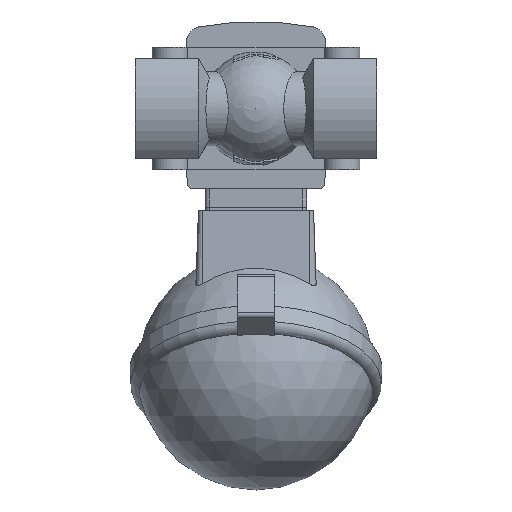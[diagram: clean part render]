
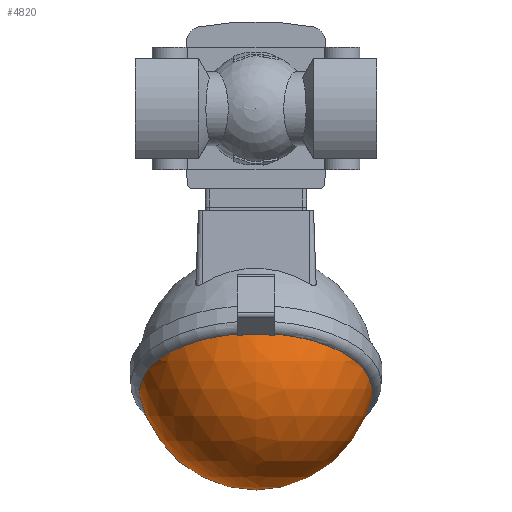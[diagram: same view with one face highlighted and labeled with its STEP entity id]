
A CAD part, front view. The second image highlights one B-rep face of the part: STEP entity #4820.
In plain terms, the highlighted spherical face has radius 32 mm.
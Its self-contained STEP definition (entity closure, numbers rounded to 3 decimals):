
#224=SPHERICAL_SURFACE('',#6341,32.);
#1651=ORIENTED_EDGE('',*,*,#2694,.F.);
#1652=ORIENTED_EDGE('',*,*,#2695,.T.);
#1653=ORIENTED_EDGE('',*,*,#2696,.T.);
#1654=ORIENTED_EDGE('',*,*,#2697,.F.);
#1655=ORIENTED_EDGE('',*,*,#2698,.F.);
#1656=ORIENTED_EDGE('',*,*,#2699,.F.);
#1657=ORIENTED_EDGE('',*,*,#2700,.T.);
#1658=ORIENTED_EDGE('',*,*,#2701,.T.);
#2694=EDGE_CURVE('',#3276,#3277,#3648,.F.);
#2695=EDGE_CURVE('',#3276,#3278,#3649,.F.);
#2696=EDGE_CURVE('',#3278,#3279,#3650,.F.);
#2697=EDGE_CURVE('',#3280,#3279,#3651,.F.);
#2698=EDGE_CURVE('',#3281,#3280,#3652,.F.);
#2699=EDGE_CURVE('',#3282,#3281,#3653,.F.);
#2700=EDGE_CURVE('',#3282,#3283,#3654,.F.);
#2701=EDGE_CURVE('',#3283,#3277,#3655,.F.);
#3276=VERTEX_POINT('',#9131);
#3277=VERTEX_POINT('',#9132);
#3278=VERTEX_POINT('',#9134);
#3279=VERTEX_POINT('',#9136);
#3280=VERTEX_POINT('',#9138);
#3281=VERTEX_POINT('',#9140);
#3282=VERTEX_POINT('',#9142);
#3283=VERTEX_POINT('',#9144);
#3648=CIRCLE('',#6342,31.368);
#3649=CIRCLE('',#6343,31.607);
#3650=CIRCLE('',#6344,31.291);
#3651=CIRCLE('',#6345,31.607);
#3652=CIRCLE('',#6346,31.368);
#3653=CIRCLE('',#6347,30.708);
#3654=CIRCLE('',#6348,30.984);
#3655=CIRCLE('',#6349,30.708);
#3967=EDGE_LOOP('',(#1651,#1652,#1653,#1654,#1655,#1656,#1657,#1658));
#4337=FACE_BOUND('',#3967,.T.);
#4820=ADVANCED_FACE('',(#4337),#224,.T.);
#6341=AXIS2_PLACEMENT_3D('',#9129,#7464,#7465);
#6342=AXIS2_PLACEMENT_3D('',#9130,#7466,#7467);
#6343=AXIS2_PLACEMENT_3D('',#9133,#7468,#7469);
#6344=AXIS2_PLACEMENT_3D('',#9135,#7470,#7471);
#6345=AXIS2_PLACEMENT_3D('',#9137,#7472,#7473);
#6346=AXIS2_PLACEMENT_3D('',#9139,#7474,#7475);
#6347=AXIS2_PLACEMENT_3D('',#9141,#7476,#7477);
#6348=AXIS2_PLACEMENT_3D('',#9143,#7478,#7479);
#6349=AXIS2_PLACEMENT_3D('',#9145,#7480,#7481);
#7464=DIRECTION('',(1.,0.,0.));
#7465=DIRECTION('',(0.,-1.,0.));
#7466=DIRECTION('',(-0.866,-0.5,0.));
#7467=DIRECTION('',(0.5,-0.866,0.));
#7468=DIRECTION('',(0.,0.,1.));
#7469=DIRECTION('',(1.,0.,0.));
#7470=DIRECTION('',(0.866,0.5,0.));
#7471=DIRECTION('',(-0.5,0.866,0.));
#7472=DIRECTION('',(0.,0.,1.));
#7473=DIRECTION('',(1.,0.,0.));
#7474=DIRECTION('',(-0.866,-0.5,0.));
#7475=DIRECTION('',(0.5,-0.866,0.));
#7476=DIRECTION('',(0.,0.,1.));
#7477=DIRECTION('',(1.,0.,0.));
#7478=DIRECTION('',(0.866,0.5,0.));
#7479=DIRECTION('',(-0.5,0.866,0.));
#7480=DIRECTION('',(0.,0.,1.));
#7481=DIRECTION('',(1.,0.,0.));
#9129=CARTESIAN_POINT('',(-70.7,0.,0.));
#9130=CARTESIAN_POINT('',(-76.183,-3.165,0.));
#9131=CARTESIAN_POINT('',(-60.699,-29.983,-5.));
#9132=CARTESIAN_POINT('',(-91.207,22.858,-9.));
#9133=CARTESIAN_POINT('',(-70.7,0.,-5.));
#9134=CARTESIAN_POINT('',(-61.058,-30.1,-5.));
#9135=CARTESIAN_POINT('',(-76.502,-3.35,0.));
#9136=CARTESIAN_POINT('',(-61.058,-30.1,5.));
#9137=CARTESIAN_POINT('',(-70.7,0.,5.));
#9138=CARTESIAN_POINT('',(-60.699,-29.983,5.));
#9139=CARTESIAN_POINT('',(-76.183,-3.165,0.));
#9140=CARTESIAN_POINT('',(-91.207,22.858,9.));
#9141=CARTESIAN_POINT('',(-70.7,0.,9.));
#9142=CARTESIAN_POINT('',(-92.452,21.676,9.));
#9143=CARTESIAN_POINT('',(-77.628,-4.,0.));
#9144=CARTESIAN_POINT('',(-92.452,21.676,-9.));
#9145=CARTESIAN_POINT('',(-70.7,0.,-9.));
